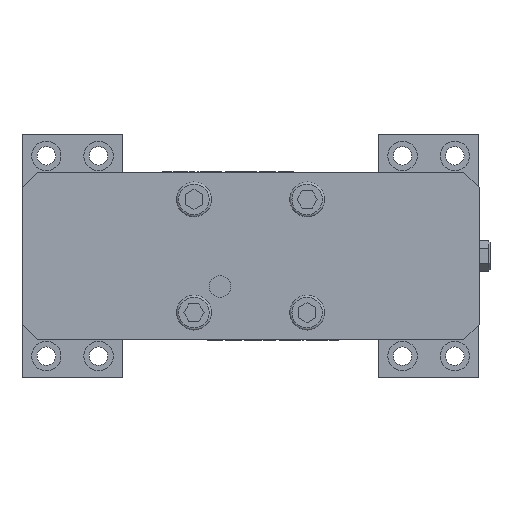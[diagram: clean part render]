
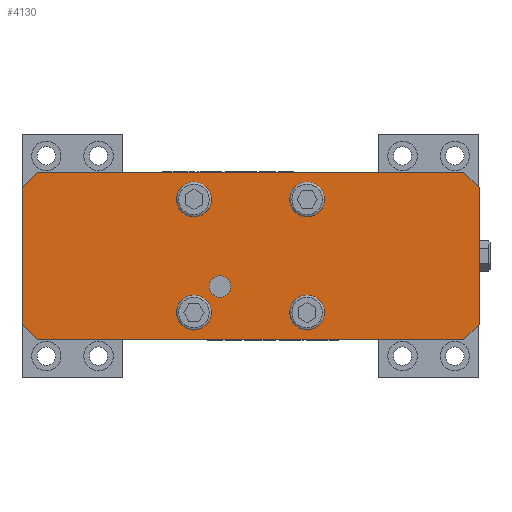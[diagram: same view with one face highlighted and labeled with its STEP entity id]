
A CAD part, front view. The second image highlights one B-rep face of the part: STEP entity #4130.
In plain terms, the highlighted planar face has unit normal (0, -1, 0).
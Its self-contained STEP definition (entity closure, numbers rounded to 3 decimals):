
#36 = EDGE_LOOP ( 'NONE', ( #32211, #25262, #30423, #21592, #30777, #9918, #32632, #9790 ) ) ;
#106 = FACE_BOUND ( 'NONE', #4686, .T. ) ;
#170 = VERTEX_POINT ( 'NONE', #19120 ) ;
#285 = DIRECTION ( 'NONE',  ( 0.707, 0., -0.707 ) ) ;
#322 = EDGE_CURVE ( 'NONE', #170, #27815, #11736, .T. ) ;
#386 = DIRECTION ( 'NONE',  ( 0., -1., 0. ) ) ;
#727 = EDGE_CURVE ( 'NONE', #28422, #28422, #18305, .T. ) ;
#833 = CARTESIAN_POINT ( 'NONE',  ( 26., 0., -26. ) ) ;
#1508 = ORIENTED_EDGE ( 'NONE', *, *, #23562, .F. ) ;
#1526 = CARTESIAN_POINT ( 'NONE',  ( -105., 0., -38.5 ) ) ;
#1588 = CARTESIAN_POINT ( 'NONE',  ( 98., 0., 38.5 ) ) ;
#1893 = LINE ( 'NONE', #20160, #19856 ) ;
#2585 = DIRECTION ( 'NONE',  ( 0., 0., -1. ) ) ;
#2716 = AXIS2_PLACEMENT_3D ( 'NONE', #833, #32476, #8487 ) ;
#2965 = PLANE ( 'NONE',  #7638 ) ;
#3250 = VERTEX_POINT ( 'NONE', #27189 ) ;
#3381 = CARTESIAN_POINT ( 'NONE',  ( -26., 0., 20. ) ) ;
#3548 = AXIS2_PLACEMENT_3D ( 'NONE', #8048, #386, #18152 ) ;
#3734 = VERTEX_POINT ( 'NONE', #22200 ) ;
#3781 = DIRECTION ( 'NONE',  ( -1., 0., 0. ) ) ;
#4130 = ADVANCED_FACE ( 'NONE', ( #13048, #106, #5010, #20907, #31390, #4834 ), #2965, .F. ) ;
#4139 = AXIS2_PLACEMENT_3D ( 'NONE', #10763, #32023, #26887 ) ;
#4194 = CARTESIAN_POINT ( 'NONE',  ( -98., 0., 38.5 ) ) ;
#4461 = CARTESIAN_POINT ( 'NONE',  ( 105., 0., 31.5 ) ) ;
#4686 = EDGE_LOOP ( 'NONE', ( #1508 ) ) ;
#4834 = FACE_OUTER_BOUND ( 'NONE', #36, .T. ) ;
#5010 = FACE_BOUND ( 'NONE', #28610, .T. ) ;
#5813 = VECTOR ( 'NONE', #31304, 1000. ) ;
#6110 = EDGE_CURVE ( 'NONE', #28385, #170, #18089, .T. ) ;
#6417 = VERTEX_POINT ( 'NONE', #24768 ) ;
#6908 = LINE ( 'NONE', #9478, #29989 ) ;
#7166 = EDGE_CURVE ( 'NONE', #28487, #3250, #1893, .T. ) ;
#7462 = VECTOR ( 'NONE', #9875, 1000. ) ;
#7638 = AXIS2_PLACEMENT_3D ( 'NONE', #26774, #18702, #31895 ) ;
#7667 = CARTESIAN_POINT ( 'NONE',  ( -20., 0., -26. ) ) ;
#8048 = CARTESIAN_POINT ( 'NONE',  ( -26., 0., -26. ) ) ;
#8487 = DIRECTION ( 'NONE',  ( 0., 0., 1. ) ) ;
#9216 = CARTESIAN_POINT ( 'NONE',  ( 105., 0., -31.5 ) ) ;
#9478 = CARTESIAN_POINT ( 'NONE',  ( 105., 0., -31.5 ) ) ;
#9790 = ORIENTED_EDGE ( 'NONE', *, *, #18169, .T. ) ;
#9875 = DIRECTION ( 'NONE',  ( 0., 0., -1. ) ) ;
#9918 = ORIENTED_EDGE ( 'NONE', *, *, #29170, .T. ) ;
#9938 = EDGE_CURVE ( 'NONE', #3734, #21113, #31638, .T. ) ;
#9944 = AXIS2_PLACEMENT_3D ( 'NONE', #32751, #30206, #2585 ) ;
#9999 = EDGE_LOOP ( 'NONE', ( #28305 ) ) ;
#10107 = DIRECTION ( 'NONE',  ( -0.707, 0., 0.707 ) ) ;
#10763 = CARTESIAN_POINT ( 'NONE',  ( 26., 0., 26. ) ) ;
#11639 = CARTESIAN_POINT ( 'NONE',  ( -105., 0., 31.5 ) ) ;
#11736 = LINE ( 'NONE', #4194, #30954 ) ;
#11802 = CIRCLE ( 'NONE', #4139, 6. ) ;
#12242 = DIRECTION ( 'NONE',  ( -0.707, 0., -0.707 ) ) ;
#13048 = FACE_BOUND ( 'NONE', #31894, .T. ) ;
#14290 = VECTOR ( 'NONE', #18246, 1000. ) ;
#14472 = VERTEX_POINT ( 'NONE', #30116 ) ;
#15356 = ORIENTED_EDGE ( 'NONE', *, *, #24032, .F. ) ;
#15559 = CIRCLE ( 'NONE', #24344, 5. ) ;
#16231 = VERTEX_POINT ( 'NONE', #30420 ) ;
#18089 = LINE ( 'NONE', #18585, #14290 ) ;
#18152 = DIRECTION ( 'NONE',  ( 1., 0., 0. ) ) ;
#18169 = EDGE_CURVE ( 'NONE', #3734, #28385, #27938, .T. ) ;
#18246 = DIRECTION ( 'NONE',  ( -1., 0., 0. ) ) ;
#18305 = CIRCLE ( 'NONE', #3548, 6. ) ;
#18493 = VECTOR ( 'NONE', #10107, 1000. ) ;
#18585 = CARTESIAN_POINT ( 'NONE',  ( 105., 0., 38.5 ) ) ;
#18702 = DIRECTION ( 'NONE',  ( 0., 1., 0. ) ) ;
#19120 = CARTESIAN_POINT ( 'NONE',  ( -98., 0., 38.5 ) ) ;
#19856 = VECTOR ( 'NONE', #3781, 1000. ) ;
#20160 = CARTESIAN_POINT ( 'NONE',  ( 105., 0., -38.5 ) ) ;
#20907 = FACE_BOUND ( 'NONE', #9999, .T. ) ;
#21113 = VERTEX_POINT ( 'NONE', #9216 ) ;
#21473 = EDGE_CURVE ( 'NONE', #26865, #26865, #22576, .T. ) ;
#21592 = ORIENTED_EDGE ( 'NONE', *, *, #22270, .T. ) ;
#22029 = CARTESIAN_POINT ( 'NONE',  ( -14., 0., -19. ) ) ;
#22200 = CARTESIAN_POINT ( 'NONE',  ( 105., 0., 31.5 ) ) ;
#22270 = EDGE_CURVE ( 'NONE', #16231, #3250, #26266, .T. ) ;
#22576 = CIRCLE ( 'NONE', #9944, 6. ) ;
#23562 = EDGE_CURVE ( 'NONE', #14472, #14472, #11802, .T. ) ;
#23596 = CARTESIAN_POINT ( 'NONE',  ( 105., 0., -38.5 ) ) ;
#23709 = CARTESIAN_POINT ( 'NONE',  ( -98., 0., -38.5 ) ) ;
#24032 = EDGE_CURVE ( 'NONE', #24601, #24601, #15559, .T. ) ;
#24344 = AXIS2_PLACEMENT_3D ( 'NONE', #32761, #25563, #27619 ) ;
#24601 = VERTEX_POINT ( 'NONE', #22029 ) ;
#24768 = CARTESIAN_POINT ( 'NONE',  ( 26., 0., -20. ) ) ;
#25262 = ORIENTED_EDGE ( 'NONE', *, *, #322, .T. ) ;
#25514 = ORIENTED_EDGE ( 'NONE', *, *, #21473, .F. ) ;
#25563 = DIRECTION ( 'NONE',  ( 0., -1., 0. ) ) ;
#25997 = ORIENTED_EDGE ( 'NONE', *, *, #30680, .F. ) ;
#26266 = LINE ( 'NONE', #23709, #28671 ) ;
#26774 = CARTESIAN_POINT ( 'NONE',  ( 105., 0., -38.5 ) ) ;
#26865 = VERTEX_POINT ( 'NONE', #3381 ) ;
#26887 = DIRECTION ( 'NONE',  ( -1., 0., 0. ) ) ;
#27189 = CARTESIAN_POINT ( 'NONE',  ( -98., 0., -38.5 ) ) ;
#27619 = DIRECTION ( 'NONE',  ( 0., 0., -1. ) ) ;
#27815 = VERTEX_POINT ( 'NONE', #11639 ) ;
#27938 = LINE ( 'NONE', #4461, #18493 ) ;
#28305 = ORIENTED_EDGE ( 'NONE', *, *, #727, .F. ) ;
#28385 = VERTEX_POINT ( 'NONE', #1588 ) ;
#28422 = VERTEX_POINT ( 'NONE', #7667 ) ;
#28487 = VERTEX_POINT ( 'NONE', #30878 ) ;
#28610 = EDGE_LOOP ( 'NONE', ( #25997 ) ) ;
#28671 = VECTOR ( 'NONE', #285, 1000. ) ;
#29170 = EDGE_CURVE ( 'NONE', #28487, #21113, #6908, .T. ) ;
#29989 = VECTOR ( 'NONE', #33679, 1000. ) ;
#30116 = CARTESIAN_POINT ( 'NONE',  ( 20., 0., 26. ) ) ;
#30206 = DIRECTION ( 'NONE',  ( 0., -1., 0. ) ) ;
#30420 = CARTESIAN_POINT ( 'NONE',  ( -105., 0., -31.5 ) ) ;
#30423 = ORIENTED_EDGE ( 'NONE', *, *, #32303, .T. ) ;
#30680 = EDGE_CURVE ( 'NONE', #6417, #6417, #33344, .T. ) ;
#30777 = ORIENTED_EDGE ( 'NONE', *, *, #7166, .F. ) ;
#30878 = CARTESIAN_POINT ( 'NONE',  ( 98., 0., -38.5 ) ) ;
#30954 = VECTOR ( 'NONE', #12242, 1000. ) ;
#31304 = DIRECTION ( 'NONE',  ( 0., 0., -1. ) ) ;
#31366 = EDGE_LOOP ( 'NONE', ( #25514 ) ) ;
#31390 = FACE_BOUND ( 'NONE', #31366, .T. ) ;
#31638 = LINE ( 'NONE', #23596, #5813 ) ;
#31894 = EDGE_LOOP ( 'NONE', ( #15356 ) ) ;
#31895 = DIRECTION ( 'NONE',  ( 0., 0., 1. ) ) ;
#32023 = DIRECTION ( 'NONE',  ( 0., -1., 0. ) ) ;
#32211 = ORIENTED_EDGE ( 'NONE', *, *, #6110, .T. ) ;
#32303 = EDGE_CURVE ( 'NONE', #27815, #16231, #33391, .T. ) ;
#32476 = DIRECTION ( 'NONE',  ( 0., -1., 0. ) ) ;
#32632 = ORIENTED_EDGE ( 'NONE', *, *, #9938, .F. ) ;
#32751 = CARTESIAN_POINT ( 'NONE',  ( -26., 0., 26. ) ) ;
#32761 = CARTESIAN_POINT ( 'NONE',  ( -14., 0., -14. ) ) ;
#33344 = CIRCLE ( 'NONE', #2716, 6. ) ;
#33391 = LINE ( 'NONE', #1526, #7462 ) ;
#33679 = DIRECTION ( 'NONE',  ( 0.707, 0., 0.707 ) ) ;
